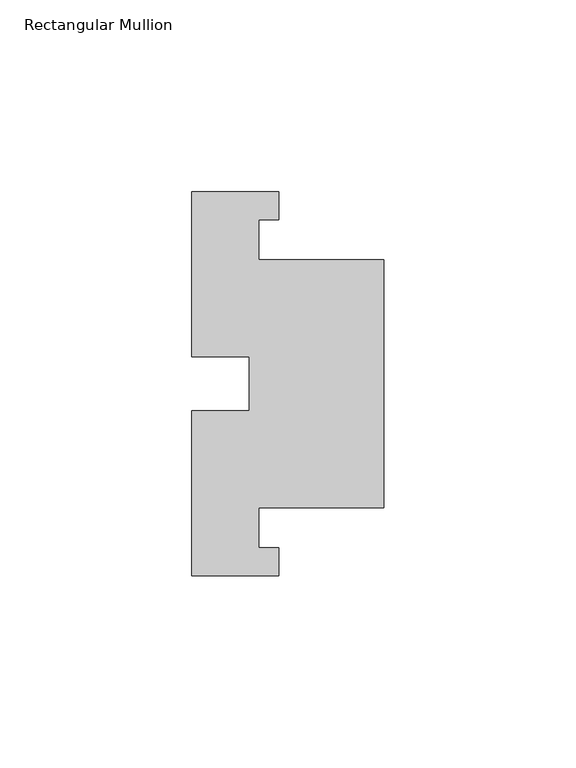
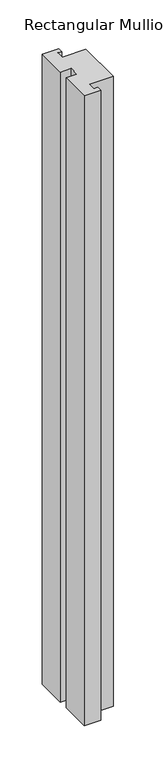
"""IFC4 building model written with IfcOpenShell, lengths in millimetres: member geometry, Rectangular Mullion : Trim-Horizontal-Teknion-Focus-FWCC."""

from ifc_helpers import new_model, si_unit, frame, origin, place, context, project, spatial, polyline, outline, extrude, source, transform, mapped, element, save


def rectangular_mullion_a94b21ff(model_context):
    return source(origin(), model_context, "Body", "SweptSolid", [
        extrude(outline(polyline([(-27.399989, 49.9999985), (-27.399989, 42.725), (-32.499989, 42.725), (-32.499989, 32.3000006), (0.0, 32.3000006), (0.0, -32.3000006), (-32.499989, -32.3000006), (-32.499989, -42.725), (-27.399989, -42.725), (-27.399989, -49.9999985), (-49.9999974, -49.9999985), (-49.9999974, -6.9999975), (-34.999989, -6.9999975), (-34.999989, 6.9999975), (-49.9999974, 6.9999975), (-49.9999974, 49.9999985), (-27.399989, 49.9999985)])), frame((0.0, 0.0, -914.4), z_axis=(0.0, 0.0, 1.0), x_axis=(1.0, 0.0, 0.0)), (0.0, 0.0, 1.0), 914.4),
    ])


if __name__ == "__main__":
    model = new_model("IFC4")
    model_context = context("Model", 3, world=origin())
    ifc_project = project(units=[si_unit("LENGTHUNIT", "METRE", prefix="MILLI")], contexts=[model_context])
    site = spatial("IfcSite", under=ifc_project)
    building = spatial("IfcBuilding", under=site)
    placement = place(None, origin())
    rectangular_mullion_shape = rectangular_mullion_a94b21ff(model_context)
    element("IfcMember", 1, ObjectType="Rectangular Mullion : Trim-Horizontal-Teknion-Focus-FWCC", at=placement, inside=building, context=model_context, shape_type="MappedRepresentation", body=[
        mapped(rectangular_mullion_shape, transform((0.0, 0.0, 0.0), x_axis=(1.0, 0.0, 0.0), y_axis=(0.0, 1.0, 0.0), z_axis=(0.0, 0.0, 1.0))),
    ])
    save(model, "model.ifc")
